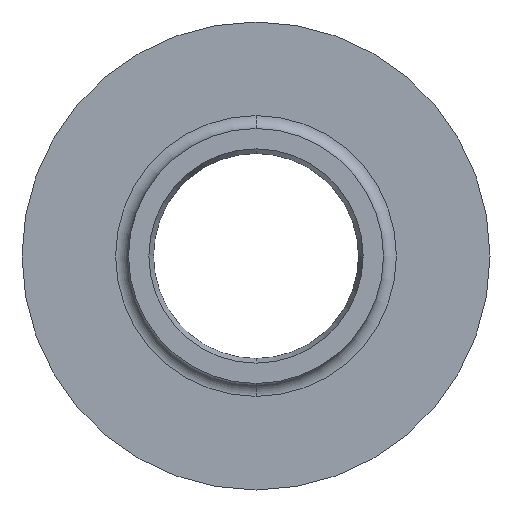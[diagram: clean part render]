
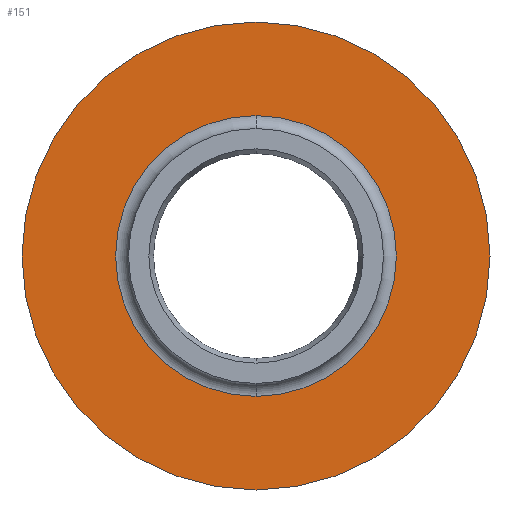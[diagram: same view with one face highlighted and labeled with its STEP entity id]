
A CAD part, front view. The second image highlights one B-rep face of the part: STEP entity #151.
In plain terms, the highlighted planar face has unit normal (0, -1, 0).
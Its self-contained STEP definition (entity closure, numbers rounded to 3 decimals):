
#6 = AXIS2_PLACEMENT_3D ( 'NONE', #668, #445, #294 ) ;
#44 = CARTESIAN_POINT ( 'NONE',  ( 0., 4.6, -14.5 ) ) ;
#51 = CARTESIAN_POINT ( 'NONE',  ( 0., 4.6, 8.7 ) ) ;
#78 = FACE_BOUND ( 'NONE', #379, .T. ) ;
#86 = DIRECTION ( 'NONE',  ( 0., -1., 0. ) ) ;
#132 = DIRECTION ( 'NONE',  ( 0., -1., 0. ) ) ;
#151 = ADVANCED_FACE ( 'NONE', ( #456, #78 ), #231, .T. ) ;
#154 = AXIS2_PLACEMENT_3D ( 'NONE', #187, #86, #462 ) ;
#165 = CIRCLE ( 'NONE', #218, 8.7 ) ;
#187 = CARTESIAN_POINT ( 'NONE',  ( 0., 4.6, 0. ) ) ;
#190 = EDGE_CURVE ( 'NONE', #659, #424, #450, .T. ) ;
#218 = AXIS2_PLACEMENT_3D ( 'NONE', #619, #572, #246 ) ;
#231 = PLANE ( 'NONE',  #6 ) ;
#232 = DIRECTION ( 'NONE',  ( 0., 0., -1. ) ) ;
#238 = VERTEX_POINT ( 'NONE', #688 ) ;
#246 = DIRECTION ( 'NONE',  ( 0., 0., -1. ) ) ;
#259 = CIRCLE ( 'NONE', #154, 14.5 ) ;
#274 = ORIENTED_EDGE ( 'NONE', *, *, #190, .F. ) ;
#294 = DIRECTION ( 'NONE',  ( 0., 0., -1. ) ) ;
#317 = ORIENTED_EDGE ( 'NONE', *, *, #535, .T. ) ;
#329 = DIRECTION ( 'NONE',  ( 0., 0., -1. ) ) ;
#330 = AXIS2_PLACEMENT_3D ( 'NONE', #340, #132, #232 ) ;
#340 = CARTESIAN_POINT ( 'NONE',  ( 0., 4.6, 0. ) ) ;
#379 = EDGE_LOOP ( 'NONE', ( #522, #274 ) ) ;
#424 = VERTEX_POINT ( 'NONE', #694 ) ;
#445 = DIRECTION ( 'NONE',  ( 0., -1., 0. ) ) ;
#450 = CIRCLE ( 'NONE', #330, 8.7 ) ;
#456 = FACE_OUTER_BOUND ( 'NONE', #702, .T. ) ;
#462 = DIRECTION ( 'NONE',  ( 0., 0., -1. ) ) ;
#482 = CARTESIAN_POINT ( 'NONE',  ( 0., 4.6, 0. ) ) ;
#497 = AXIS2_PLACEMENT_3D ( 'NONE', #482, #547, #329 ) ;
#516 = EDGE_CURVE ( 'NONE', #424, #659, #165, .T. ) ;
#522 = ORIENTED_EDGE ( 'NONE', *, *, #516, .F. ) ;
#535 = EDGE_CURVE ( 'NONE', #556, #238, #259, .T. ) ;
#547 = DIRECTION ( 'NONE',  ( 0., -1., 0. ) ) ;
#556 = VERTEX_POINT ( 'NONE', #44 ) ;
#572 = DIRECTION ( 'NONE',  ( 0., -1., 0. ) ) ;
#619 = CARTESIAN_POINT ( 'NONE',  ( 0., 4.6, 0. ) ) ;
#652 = ORIENTED_EDGE ( 'NONE', *, *, #697, .T. ) ;
#659 = VERTEX_POINT ( 'NONE', #51 ) ;
#668 = CARTESIAN_POINT ( 'NONE',  ( 8.7, 4.6, 0. ) ) ;
#680 = CIRCLE ( 'NONE', #497, 14.5 ) ;
#688 = CARTESIAN_POINT ( 'NONE',  ( 0., 4.6, 14.5 ) ) ;
#694 = CARTESIAN_POINT ( 'NONE',  ( 0., 4.6, -8.7 ) ) ;
#697 = EDGE_CURVE ( 'NONE', #238, #556, #680, .T. ) ;
#702 = EDGE_LOOP ( 'NONE', ( #317, #652 ) ) ;
